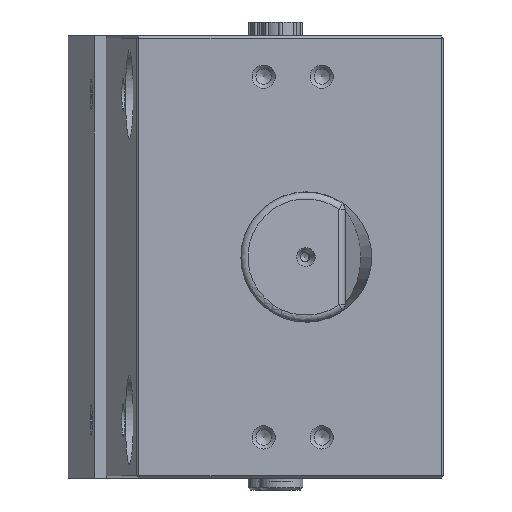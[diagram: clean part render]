
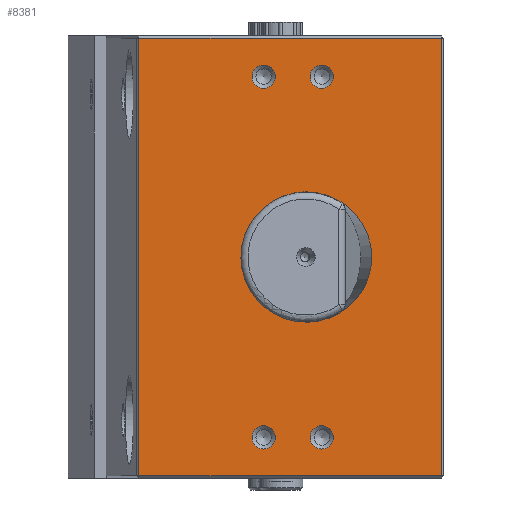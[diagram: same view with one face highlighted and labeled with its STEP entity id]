
A CAD part, left-side view. The second image highlights one B-rep face of the part: STEP entity #8381.
In plain terms, the highlighted planar face has unit normal (-1, 0, 0).
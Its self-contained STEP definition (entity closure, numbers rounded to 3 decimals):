
#7124=CARTESIAN_POINT('',(0.,18.35,-72.5));
#7125=VERTEX_POINT('',#7124);
#7126=CARTESIAN_POINT('',(0.,18.35,-77.5));
#7127=DIRECTION('',(1.0,0.0,0.0));
#7128=DIRECTION('',(0.0,0.0,1.0));
#7129=AXIS2_PLACEMENT_3D('',#7126,#7127,#7128);
#7130=CIRCLE('',#7129,5.0);
#7131=EDGE_CURVE('',#7125,#7125,#7130,.T.);
#7181=CARTESIAN_POINT('',(0.,18.35,82.5));
#7182=VERTEX_POINT('',#7181);
#7183=CARTESIAN_POINT('',(0.,18.35,77.5));
#7184=DIRECTION('',(1.0,0.0,0.0));
#7185=DIRECTION('',(0.0,0.0,1.0));
#7186=AXIS2_PLACEMENT_3D('',#7183,#7184,#7185);
#7187=CIRCLE('',#7186,5.0);
#7188=EDGE_CURVE('',#7182,#7182,#7187,.T.);
#7238=CARTESIAN_POINT('',(0.,-6.65,-72.5));
#7239=VERTEX_POINT('',#7238);
#7240=CARTESIAN_POINT('',(0.,-6.65,-77.5));
#7241=DIRECTION('',(1.0,0.0,0.0));
#7242=DIRECTION('',(0.0,0.0,1.0));
#7243=AXIS2_PLACEMENT_3D('',#7240,#7241,#7242);
#7244=CIRCLE('',#7243,5.0);
#7245=EDGE_CURVE('',#7239,#7239,#7244,.T.);
#7295=CARTESIAN_POINT('',(0.,-6.65,82.5));
#7296=VERTEX_POINT('',#7295);
#7297=CARTESIAN_POINT('',(0.,-6.65,77.5));
#7298=DIRECTION('',(1.0,0.0,0.0));
#7299=DIRECTION('',(0.0,0.0,1.0));
#7300=AXIS2_PLACEMENT_3D('',#7297,#7298,#7299);
#7301=CIRCLE('',#7300,5.0);
#7302=EDGE_CURVE('',#7296,#7296,#7301,.T.);
#7936=CARTESIAN_POINT('',(0.,28.107,0.));
#7937=VERTEX_POINT('',#7936);
#7938=CARTESIAN_POINT('',(0.0,0.,0.0));
#7939=DIRECTION('',(1.0,0.0,0.0));
#7940=DIRECTION('',(0.0,-1.0,0.0));
#7941=AXIS2_PLACEMENT_3D('',#7938,#7939,#7940);
#7942=ELLIPSE('',#7941,28.107,28.);
#7943=EDGE_CURVE('',#7937,#7937,#7942,.T.);
#8327=CARTESIAN_POINT('',(0.,-59.1,0.0));
#8328=DIRECTION('',(-1.0,0.0,0.0));
#8329=DIRECTION('',(0.0,0.0,1.0));
#8330=AXIS2_PLACEMENT_3D('',#8327,#8328,#8329);
#8331=PLANE('',#8330);
#8332=CARTESIAN_POINT('',(0.,71.988,-94.0));
#8333=VERTEX_POINT('',#8332);
#8334=CARTESIAN_POINT('',(0.,71.988,94.0));
#8335=VERTEX_POINT('',#8334);
#8336=CARTESIAN_POINT('',(0.,71.988,-94.0));
#8337=DIRECTION('',(0.0,0.0,1.0));
#8338=VECTOR('',#8337,188.0);
#8339=LINE('',#8336,#8338);
#8340=EDGE_CURVE('',#8333,#8335,#8339,.T.);
#8341=ORIENTED_EDGE('',*,*,#8340,.F.);
#8342=CARTESIAN_POINT('',(0.,-58.1,-94.0));
#8343=VERTEX_POINT('',#8342);
#8344=CARTESIAN_POINT('',(0.,-58.1,-94.0));
#8345=DIRECTION('',(0.0,1.0,0.0));
#8346=VECTOR('',#8345,130.088);
#8347=LINE('',#8344,#8346);
#8348=EDGE_CURVE('',#8343,#8333,#8347,.T.);
#8349=ORIENTED_EDGE('',*,*,#8348,.F.);
#8350=CARTESIAN_POINT('',(0.,-58.1,94.0));
#8351=VERTEX_POINT('',#8350);
#8352=CARTESIAN_POINT('',(0.,-58.1,94.0));
#8353=DIRECTION('',(0.0,0.0,-1.0));
#8354=VECTOR('',#8353,188.0);
#8355=LINE('',#8352,#8354);
#8356=EDGE_CURVE('',#8351,#8343,#8355,.T.);
#8357=ORIENTED_EDGE('',*,*,#8356,.F.);
#8358=CARTESIAN_POINT('',(0.,71.988,94.0));
#8359=DIRECTION('',(0.0,-1.0,0.0));
#8360=VECTOR('',#8359,130.088);
#8361=LINE('',#8358,#8360);
#8362=EDGE_CURVE('',#8335,#8351,#8361,.T.);
#8363=ORIENTED_EDGE('',*,*,#8362,.F.);
#8364=EDGE_LOOP('',(#8341,#8349,#8357,#8363));
#8365=FACE_OUTER_BOUND('',#8364,.T.);
#8366=ORIENTED_EDGE('',*,*,#7943,.T.);
#8367=EDGE_LOOP('',(#8366));
#8368=FACE_BOUND('',#8367,.T.);
#8369=ORIENTED_EDGE('',*,*,#7131,.T.);
#8370=EDGE_LOOP('',(#8369));
#8371=FACE_BOUND('',#8370,.T.);
#8372=ORIENTED_EDGE('',*,*,#7188,.T.);
#8373=EDGE_LOOP('',(#8372));
#8374=FACE_BOUND('',#8373,.T.);
#8375=ORIENTED_EDGE('',*,*,#7245,.T.);
#8376=EDGE_LOOP('',(#8375));
#8377=FACE_BOUND('',#8376,.T.);
#8378=ORIENTED_EDGE('',*,*,#7302,.T.);
#8379=EDGE_LOOP('',(#8378));
#8380=FACE_BOUND('',#8379,.T.);
#8381=ADVANCED_FACE('',(#8365,#8368,#8371,#8374,#8377,#8380),#8331,.T.);
